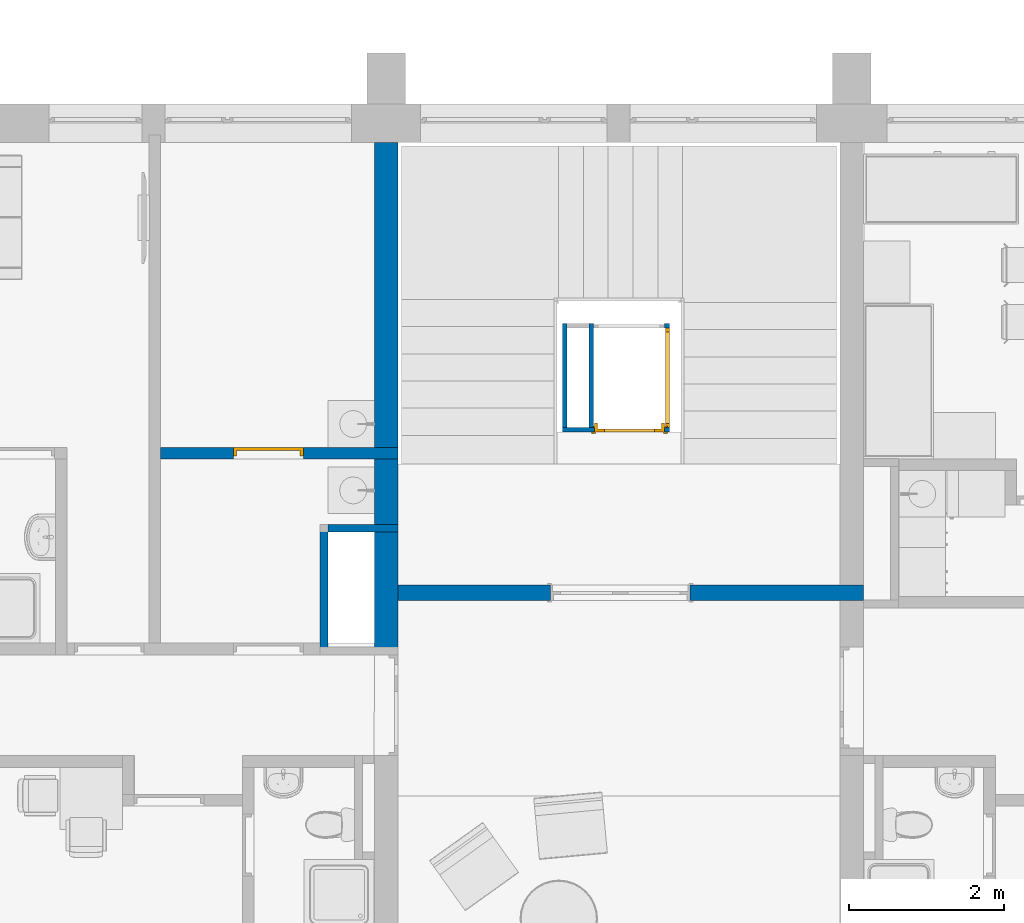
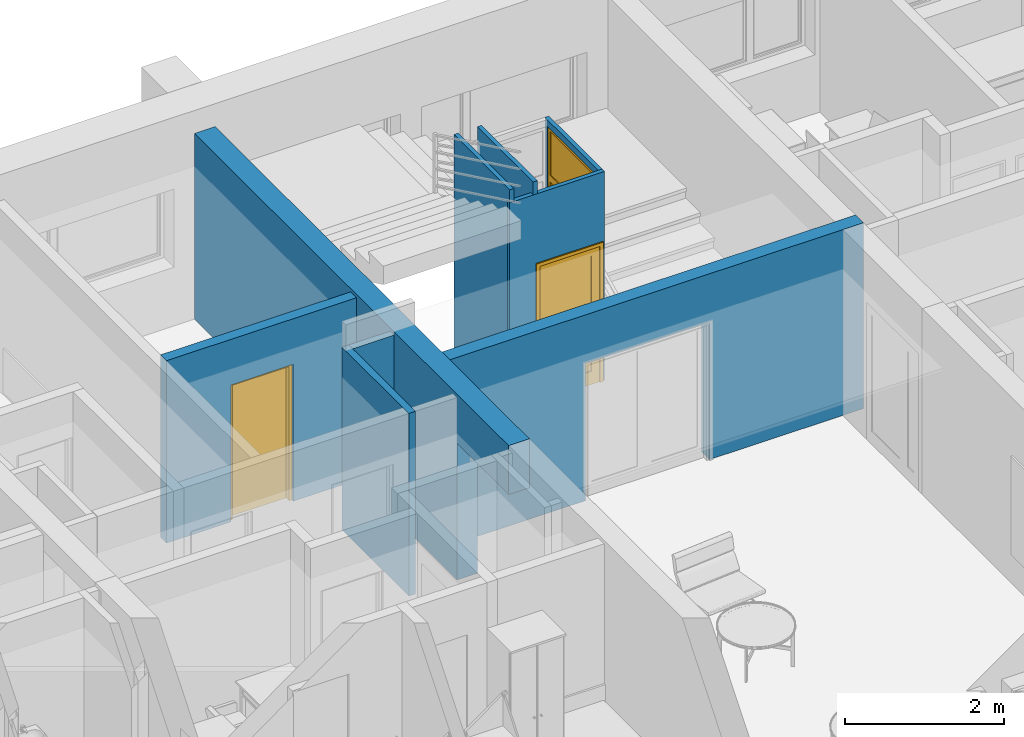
# One storey, part 13 of 165: 9 walls, 2 doors, 1 window, 5 openings.
"""IFC2X3 building model written with IfcOpenShell, lengths in millimetres."""

from ifc_helpers import new_model, entity, si_unit, converted_unit, money_unit, direction, frame, origin_with_axes, place, context, subcontext, project, spatial, polyline, outline, extrude, open_shell, faceted_brep, surface_model, source, transform, mapped, material, material_list, layer, layer_set, layer_usage, type_object, element, fill, save


model = new_model("IFC2X3")

# Units and contexts
model_context = context("Model", 3, precision=1e-05, world=origin_with_axes(), true_north=direction((0.0, 1.0)))
body_context = subcontext(model_context, "Body", "Model", "MODEL_VIEW")
ifc_project = project(units=[si_unit("LENGTHUNIT", "METRE", prefix="MILLI"), si_unit("AREAUNIT", "SQUARE_METRE"), si_unit("VOLUMEUNIT", "CUBIC_METRE"), converted_unit("PLANEANGLEUNIT", "DEGREE", entity("IfcPlaneAngleMeasure", 0.0174532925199), si_unit("PLANEANGLEUNIT", "RADIAN"), dimensions=[0, 0, 0, 0, 0, 0, 0]), si_unit("SOLIDANGLEUNIT", "STERADIAN"), money_unit("USD"), converted_unit("TIMEUNIT", "Year", entity("IfcTimeMeasure", 31556926.0), si_unit("TIMEUNIT", "SECOND"), dimensions=[0, 0, 0, 0, 0, 0, 0]), si_unit("MASSUNIT", "GRAM"), si_unit("THERMODYNAMICTEMPERATUREUNIT", "DEGREE_CELSIUS"), si_unit("LUMINOUSINTENSITYUNIT", "LUMEN")], contexts=[model_context])

# Site, building, storey
site_placement = place(None, origin_with_axes())
site = spatial("IfcSite", under=ifc_project, at=site_placement, Name="Site", CompositionType="ELEMENT")
building_placement = place(site_placement, origin_with_axes())
building = spatial("IfcBuilding", under=site, at=building_placement, Name="Building", CompositionType="ELEMENT")
storey_placement = place(building_placement, frame((0.0, 0.0, 6300.0), z_axis=(0.0, 0.0, 1.0), x_axis=(1.0, 0.0, 0.0)))
storey = spatial("IfcBuildingStorey", under=building, at=storey_placement, Name="4KORRUS", CompositionType="ELEMENT", Elevation=6300.0)

# Wall, opening, door
ifc_material_1 = material(Name="UmbKipsplaat")
ifc_layer_1 = layer(ifc_material_1, 13.0, ventilated="UNKNOWN")
ifc_layer_2 = layer(ifc_material_1, 13.0, ventilated="UNKNOWN")
ifc_material_2 = material(Name="SOOJUSTUS MINERAALVILL")
ifc_layer_3 = layer(ifc_material_2, 98.0, ventilated="UNKNOWN")
ifc_layer_4 = layer(ifc_material_1, 13.0, ventilated="UNKNOWN")
ifc_layer_5 = layer(ifc_material_1, 13.0, ventilated="UNKNOWN")
ifc_layer_set_1 = layer_set([ifc_layer_1, ifc_layer_2, ifc_layer_3, ifc_layer_4, ifc_layer_5], Name="kipssein150")
ifc_layer_usage_1 = layer_usage(ifc_layer_set_1, "AXIS2", "POSITIVE", 0.0)
wall_type_1 = type_object("IfcWallType", Name="kipssein150 150", PredefinedType="NOTDEFINED")
wall_1_placement = place(storey_placement, frame((-11990.2967033, -9065.57320461, 0.0), z_axis=(0.0, 0.0, 1.0), x_axis=(-1.0, 0.0, 0.0)))
wall_1 = element("IfcWallStandardCase", 1, at=wall_1_placement, inside=storey, type_object=wall_type_1, material=ifc_layer_usage_1, Name="SS1", ObjectType="SS1", context=body_context, shape_type="SweptSolid", body=[
    extrude(outline(polyline([(0.0, 0.0), (3057.0, 0.0), (3057.0, 150.0), (0.0, 150.0), (0.0, 0.0)])), origin_with_axes(), (0.0, 0.0, 1.0), 2800.0),
])
opening_1_placement = place(wall_1_placement, frame((1668.41053385, 0.0, 0.0), z_axis=(0.0, 0.0, 1.0), x_axis=(1.0, 0.0, 0.0)))
opening_1 = element("IfcOpeningElement", 2, at=opening_1_placement, cuts=wall_1, Name="SU2-4", context=body_context, shape_type="SweptSolid", body=[
    extrude(outline(polyline([(-450.0, -2100.0), (450.0, -2100.0), (450.0, 0.0), (-450.0, 0.0), (-450.0, -2100.0)])), frame((0.0, 150.0, 0.0), z_axis=(0.0, 1.0, 0.0), x_axis=(1.0, 0.0, 0.0)), (0.0, 0.0, -1.0), 450.0),
])
ifc_material_3 = material(Name="Background")
ifc_material_list = material_list([ifc_material_3])
door_style_1 = type_object("IfcDoorStyle", Name="Door 19", ConstructionType="NOTDEFINED", OperationType="SINGLE_SWING_LEFT", ParameterTakesPrecedence=False, Sizeable=False)
shared_shape_1 = source(origin_with_axes(), body_context, "Body", "Brep", [
    faceted_brep([(410.0, -40.0, 0.0), (410.0, -115.0, 0.0), (410.0, -115.0, 2060.0), (410.0, -40.0, 2060.0), (422.0, -40.0, 0.0), (422.0, 0.0, 0.0), (450.0, 0.0, 0.0), (450.0, -115.0, 0.0), (450.0, -115.0, 2060.0), (422.0, -40.0, 2060.0), (450.0, 0.0, 2060.0), (422.0, 0.0, 2060.0)], [[[0, 1, 2, 3]], [[4, 5, 6, 7, 1, 0]], [[2, 1, 7, 8]], [[9, 3, 2, 8, 10, 11]], [[9, 4, 0, 3]], [[11, 5, 4, 9]], [[11, 10, 6, 5]], [[7, 6, 10, 8]]]),
    faceted_brep([(-422.0, -40.0, 2060.0), (-422.0, 0.0, 2060.0), (-450.0, 0.0, 2060.0), (-450.0, -115.0, 2060.0), (-410.0, -115.0, 2060.0), (-410.0, -40.0, 2060.0), (-422.0, -40.0, 0.0), (-422.0, 0.0, 0.0), (-450.0, 0.0, 0.0), (-450.0, -115.0, 0.0), (-410.0, -115.0, 0.0), (-410.0, -40.0, 0.0)], [[[0, 1, 2, 3, 4, 5]], [[0, 6, 7, 1]], [[7, 8, 2, 1]], [[3, 2, 8, 9]], [[4, 3, 9, 10]], [[5, 4, 10, 11]], [[5, 11, 6, 0]], [[6, 11, 10, 9, 8, 7]]]),
    faceted_brep([(422.0, 0.0, 2072.0), (-422.0, 0.0, 2072.0), (-422.0, 0.0, 2060.0), (-450.0, 0.0, 2060.0), (-450.0, 0.0, 2100.0), (450.0, 0.0, 2100.0), (450.0, 0.0, 2060.0), (422.0, 0.0, 2060.0), (422.0, -40.0, 2072.0), (-422.0, -40.0, 2072.0), (-422.0, -40.0, 2060.0), (-410.0, -40.0, 2060.0), (-410.0, -115.0, 2060.0), (-450.0, -115.0, 2060.0), (-450.0, -115.0, 2100.0), (450.0, -115.0, 2100.0), (450.0, -115.0, 2060.0), (422.0, -40.0, 2060.0), (410.0, -115.0, 2060.0), (410.0, -40.0, 2060.0)], [[[0, 1, 2, 3, 4, 5, 6, 7]], [[0, 8, 9, 1]], [[1, 9, 10, 2]], [[10, 11, 12, 13, 3, 2]], [[14, 4, 3, 13]], [[15, 5, 4, 14]], [[16, 6, 5, 15]], [[17, 7, 6, 16, 18, 19]], [[7, 17, 8, 0]], [[10, 9, 8, 17, 19, 11]], [[19, 18, 12, 11]], [[13, 12, 18, 16, 15, 14]]]),
    faceted_brep([(-422.0, 0.0, 0.0), (422.0, 0.0, 0.0), (422.0, -40.0, 0.0), (-422.0, -40.0, 0.0), (-422.0, 0.0, 2072.0), (422.0, 0.0, 2072.0), (422.0, -40.0, 2072.0), (-422.0, -40.0, 2072.0)], [[[0, 1, 2, 3]], [[0, 4, 5, 1]], [[1, 5, 6, 2]], [[3, 2, 6, 7]], [[4, 0, 3, 7]], [[5, 4, 7, 6]]]),
])
door_1_placement = place(opening_1_placement, frame((450.0, 0.0, 0.0), z_axis=(0.0, 0.0, 1.0), x_axis=(-1.0, 0.0, 0.0)))
door_1 = element("IfcDoor", 3, at=door_1_placement, inside=storey, type_object=door_style_1, material=ifc_material_list, Name="SU2-4", ObjectType="Abiruumi uks", OverallHeight=2100.0, OverallWidth=900.0, context=body_context, shape_type="MappedRepresentation", body=[
    mapped(shared_shape_1, transform((450.0, 0.0, 0.0))),
])
fill(opening_1, door_1)

# Wall, opening
ifc_material_4 = material(Name="Olemasolevad seinad tellis, uus viimistlus")
ifc_layer_6 = layer(ifc_material_4, 300.0, ventilated="UNKNOWN")
ifc_layer_set_2 = layer_set([ifc_layer_6], Name="Olemasolevad seinad tellis, uus viimistlus  300")
ifc_layer_usage_2 = layer_usage(ifc_layer_set_2, "AXIS2", "POSITIVE", 0.0)
wall_type_2 = type_object("IfcWallType", Name="Olemasolevad seinad tellis, uus viimistlus  300", PredefinedType="NOTDEFINED")
wall_2_placement = place(storey_placement, frame((-11990.2967033, -13039.2398994, 0.0), z_axis=(0.0, 0.0, 1.0), x_axis=(0.0, 1.0, 0.0)))
wall_2 = element("IfcWallStandardCase", 4, at=wall_2_placement, inside=storey, type_object=wall_type_2, material=ifc_layer_usage_2, Name="KS1", ObjectType="KS1", context=body_context, shape_type="SweptSolid", body=[
    extrude(outline(polyline([(0.0, 0.0), (7899.63579061, 0.0), (7899.63579061, 300.0), (0.0, 300.0), (0.0, 0.0)])), origin_with_axes(), (0.0, 0.0, 1.0), 2850.0),
])
opening_2_placement = place(wall_2_placement, frame((650.0, 0.0, 0.0), z_axis=(0.0, 0.0, 1.0), x_axis=(1.0, 0.0, 0.0)))
element("IfcOpeningElement", 5, at=opening_2_placement, cuts=wall_2, Name="SU4-22", context=body_context, shape_type="SweptSolid", body=[
    extrude(outline(polyline([(-650.0, -2100.0), (650.0, -2100.0), (650.0, 0.0), (-650.0, 0.0), (-650.0, -2100.0)])), frame((0.0, 300.0, 0.0), z_axis=(0.0, -1.0, 0.0), x_axis=(-1.0, 0.0, 0.0)), (0.0, 0.0, 1.0), 900.0),
])

ifc_layer_7 = layer(ifc_material_4, 200.0, ventilated="UNKNOWN")
ifc_layer_set_3 = layer_set([ifc_layer_7], Name="Olemasolevad seinad tellis, uus viimistlus  200")
ifc_layer_usage_3 = layer_usage(ifc_layer_set_3, "AXIS2", "POSITIVE", -200.0)
wall_type_3 = type_object("IfcWallType", Name="Olemasolevad seinad tellis, uus viimistlus  200", PredefinedType="NOTDEFINED")
wall_3_placement = place(storey_placement, frame((-5990.29670331, -11039.6041088, 0.0), z_axis=(0.0, 0.0, 1.0), x_axis=(-1.0, 0.0, 0.0)))
wall_3 = element("IfcWallStandardCase", 6, at=wall_3_placement, inside=storey, type_object=wall_type_3, material=ifc_layer_usage_3, Name="KS1", ObjectType="KS1", context=body_context, shape_type="SweptSolid", body=[
    extrude(outline(polyline([(0.0, -200.0), (6000.0, -200.0), (6000.0, 0.0), (0.0, 0.0), (0.0, -200.0)])), origin_with_axes(), (0.0, 0.0, 1.0), 2850.0),
])
opening_3_placement = place(wall_3_placement, frame((3133.31707985, 0.0, 0.0), z_axis=(0.0, 0.0, 1.0), x_axis=(1.0, 0.0, 0.0)))
element("IfcOpeningElement", 7, at=opening_3_placement, cuts=wall_3, Name="SU5", context=body_context, shape_type="SweptSolid", body=[
    extrude(outline(polyline([(-900.0, 0.0), (900.0, 0.0), (900.0, 2100.0), (-900.0, 2100.0), (-900.0, 0.0)])), frame((0.0, -200.0, 0.0), z_axis=(0.0, 1.0, 0.0), x_axis=(-1.0, 0.0, 0.0)), (0.0, 0.0, 1.0), 600.0),
    extrude(outline(polyline([(-937.0, 0.0), (-937.0, -2137.0), (937.0, -2137.0), (937.0, 0.0), (-937.0, 0.0)])), frame((0.0, -200.0, 0.0), z_axis=(0.0, -1.0, 0.0), x_axis=(-1.0, 0.0, 0.0)), (0.0, 0.0, 1.0), 200.0),
    extrude(outline(polyline([(-937.0, 2137.0), (-937.0, 0.0), (937.0, 0.0), (937.0, 2137.0), (-937.0, 2137.0)])), frame((0.0, 0.0, 0.0), z_axis=(0.0, 1.0, 0.0), x_axis=(-1.0, 0.0, 0.0)), (0.0, 0.0, 1.0), 200.0),
])

# Walls
ifc_material_5 = material(Name="krohv")
ifc_layer_8 = layer(ifc_material_5, 2.0, ventilated="UNKNOWN")
ifc_layer_9 = layer(ifc_material_5, 10.0, ventilated="UNKNOWN")
ifc_material_6 = material(Name="Kergplokk")
ifc_layer_10 = layer(ifc_material_6, 76.0, ventilated="UNKNOWN")
ifc_layer_11 = layer(ifc_material_5, 10.0, ventilated="UNKNOWN")
ifc_layer_12 = layer(ifc_material_5, 2.0, ventilated="UNKNOWN")
ifc_layer_set_4 = layer_set([ifc_layer_8, ifc_layer_9, ifc_layer_10, ifc_layer_11, ifc_layer_12], Name="Kergplokk Bauroc 100")
ifc_layer_usage_4 = layer_usage(ifc_layer_set_4, "AXIS2", "POSITIVE", 0.0)
wall_type_4 = type_object("IfcWallType", Name="Kergplokk Bauroc 100 100", PredefinedType="NOTDEFINED")
wall_4_placement = place(storey_placement, frame((-11990.2967033, -10059.2398994, 0.0), z_axis=(0.0, 0.0, 1.0), x_axis=(-1.0, 0.0, 0.0)))
element("IfcWallStandardCase", 8, at=wall_4_placement, inside=storey, type_object=wall_type_4, material=ifc_layer_usage_4, Name="SS2", ObjectType="SS2", context=body_context, shape_type="SweptSolid", body=[
    extrude(outline(polyline([(0.0, 0.0), (900.0, 0.0), (900.0, 100.0), (0.0, 100.0), (0.0, 0.0)])), origin_with_axes(), (0.0, 0.0, 1.0), 2800.0),
])
ifc_layer_usage_5 = layer_usage(ifc_layer_set_4, "AXIS2", "POSITIVE", 0.0)
wall_5_placement = place(storey_placement, frame((-12890.2967033, -11739.2398994, 0.0), z_axis=(0.0, 0.0, 1.0), x_axis=(0.0, 1.0, 0.0)))
element("IfcWallStandardCase", 9, at=wall_5_placement, inside=storey, type_object=wall_type_4, material=ifc_layer_usage_5, Name="SS2", ObjectType="SS2", context=body_context, shape_type="SweptSolid", body=[
    extrude(outline(polyline([(0.0, 0.0), (1680.0, 0.0), (1680.0, 100.0), (0.0, 100.0), (0.0, 0.0)])), origin_with_axes(), (0.0, 0.0, 1.0), 2800.0),
])
ifc_material_7 = material(Name="Terasprofiil")
ifc_layer_13 = layer(ifc_material_7, 60.0, ventilated="UNKNOWN")
ifc_layer_set_5 = layer_set([ifc_layer_13], Name="Terasprofiil 60")
ifc_layer_usage_6 = layer_usage(ifc_layer_set_5, "AXIS2", "POSITIVE", -60.0)
wall_type_5 = type_object("IfcWallType", Name="Terasprofiil 60", PredefinedType="NOTDEFINED")
wall_6_placement = place(storey_placement, frame((-9469.40654634, -7470.64352695, 0.0), z_axis=(0.0, 0.0, 1.0), x_axis=(0.0, -1.0, 0.0)))
element("IfcWallStandardCase", 10, at=wall_6_placement, inside=storey, type_object=wall_type_5, material=ifc_layer_usage_6, Name="Lifti sein", ObjectType="Lifti sein", context=body_context, shape_type="SweptSolid", body=[
    extrude(outline(polyline([(0.0, -60.0), (1400.0, -60.0), (1400.0, 0.0), (0.0, 0.0), (0.0, -60.0)])), origin_with_axes(), (0.0, 0.0, 1.0), 3400.0),
])

# Wall, opening, window
ifc_layer_usage_7 = layer_usage(ifc_layer_set_5, "AXIS2", "POSITIVE", -60.0)
wall_7_placement = place(storey_placement, frame((-8491.93119318, -7470.64352695, 0.0), z_axis=(0.0, 0.0, 1.0), x_axis=(0.0, -1.0, 0.0)))
wall_7 = element("IfcWallStandardCase", 11, at=wall_7_placement, inside=storey, type_object=wall_type_5, material=ifc_layer_usage_7, Name="Lifti sein", ObjectType="Lifti sein", context=body_context, shape_type="SweptSolid", body=[
    extrude(outline(polyline([(0.0, -60.0), (1400.0, -60.0), (1400.0, 0.0), (0.0, 0.0), (0.0, -60.0)])), origin_with_axes(), (0.0, 0.0, 1.0), 3200.0),
])
opening_4_placement = place(wall_7_placement, frame((700.0, 0.0, 0.0), z_axis=(0.0, 0.0, 1.0), x_axis=(1.0, 0.0, 0.0)))
opening_4 = element("IfcOpeningElement", 12, at=opening_4_placement, cuts=wall_7, Name="Lifti klaassein", context=body_context, shape_type="SweptSolid", body=[
    extrude(outline(polyline([(640.0, -3100.0), (640.0, 0.0), (-640.0, 0.0), (-640.0, -3100.0), (640.0, -3100.0)])), frame((0.0, -60.0, 0.0), z_axis=(0.0, 1.0, 0.0), x_axis=(1.0, 0.0, 0.0)), (0.0, 0.0, 1.0), 180.0),
])
window_style = type_object("IfcWindowStyle", Name="Vertical Multi-Sash Window 19", ConstructionType="NOTDEFINED", OperationType="USERDEFINED", ParameterTakesPrecedence=False, Sizeable=False)
shared_shape_2 = source(origin_with_axes(), body_context, "Body", "SurfaceModel", [
    faceted_brep([(590.0, -50.0, 3050.0), (640.0, -50.0, 3050.0), (640.0, 0.0, 3050.0), (590.0, 0.0, 3050.0), (590.0, -50.0, 2375.0), (590.0, -50.0, 2275.0), (590.0, -50.0, 1600.0), (590.0, -50.0, 1500.0), (590.0, -50.0, 825.0), (590.0, -50.0, 725.0), (590.0, -50.0, 50.0), (640.0, -50.0, 50.0), (640.0, 0.0, 50.0), (590.0, 0.0, 50.0), (590.0, 0.0, 725.0), (590.0, 0.0, 825.0), (590.0, 0.0, 1500.0), (590.0, 0.0, 1600.0), (590.0, 0.0, 2275.0), (590.0, 0.0, 2375.0)], [[[0, 1, 2, 3]], [[0, 4, 5, 6, 7, 8, 9, 10, 11, 1]], [[1, 11, 12, 2]], [[3, 2, 12, 13, 14, 15, 16, 17, 18, 19]], [[4, 0, 3, 19]], [[5, 4, 19, 18]], [[6, 5, 18, 17]], [[7, 6, 17, 16]], [[8, 7, 16, 15]], [[9, 8, 15, 14]], [[10, 9, 14, 13]], [[11, 10, 13, 12]]]),
    faceted_brep([(-590.0, -50.0, 2375.0), (-590.0, -50.0, 2275.0), (-590.0, 0.0, 2275.0), (-590.0, 0.0, 2375.0), (-590.0, -50.0, 3050.0), (-640.0, -50.0, 3050.0), (-640.0, -50.0, 50.0), (-590.0, -50.0, 50.0), (-590.0, -50.0, 725.0), (-590.0, -50.0, 825.0), (-590.0, -50.0, 1500.0), (-590.0, -50.0, 1600.0), (-590.0, 0.0, 1600.0), (-590.0, 0.0, 1500.0), (-590.0, 0.0, 825.0), (-590.0, 0.0, 725.0), (-590.0, 0.0, 50.0), (-640.0, 0.0, 50.0), (-640.0, 0.0, 3050.0), (-590.0, 0.0, 3050.0)], [[[0, 1, 2, 3]], [[0, 4, 5, 6, 7, 8, 9, 10, 11, 1]], [[1, 11, 12, 2]], [[3, 2, 12, 13, 14, 15, 16, 17, 18, 19]], [[4, 0, 3, 19]], [[5, 4, 19, 18]], [[6, 5, 18, 17]], [[7, 6, 17, 16]], [[8, 7, 16, 15]], [[9, 8, 15, 14]], [[10, 9, 14, 13]], [[11, 10, 13, 12]]]),
    faceted_brep([(-590.0, -50.0, 3050.0), (-640.0, -50.0, 3050.0), (-640.0, 0.0, 3050.0), (-590.0, 0.0, 3050.0), (590.0, -50.0, 3050.0), (640.0, -50.0, 3050.0), (640.0, -50.0, 3100.0), (-640.0, -50.0, 3100.0), (-640.0, 0.0, 3100.0), (640.0, 0.0, 3100.0), (640.0, 0.0, 3050.0), (590.0, 0.0, 3050.0)], [[[0, 1, 2, 3]], [[0, 4, 5, 6, 7, 1]], [[1, 7, 8, 2]], [[3, 2, 8, 9, 10, 11]], [[4, 0, 3, 11]], [[5, 4, 11, 10]], [[6, 5, 10, 9]], [[7, 6, 9, 8]]]),
    faceted_brep([(590.0, -50.0, 50.0), (640.0, -50.0, 50.0), (640.0, 0.0, 50.0), (590.0, 0.0, 50.0), (-590.0, -50.0, 50.0), (-640.0, -50.0, 50.0), (-640.0, -50.0, 0.0), (640.0, -50.0, 0.0), (640.0, 0.0, 0.0), (-640.0, 0.0, 0.0), (-640.0, 0.0, 50.0), (-590.0, 0.0, 50.0)], [[[0, 1, 2, 3]], [[0, 4, 5, 6, 7, 1]], [[1, 7, 8, 2]], [[3, 2, 8, 9, 10, 11]], [[4, 0, 3, 11]], [[5, 4, 11, 10]], [[6, 5, 10, 9]], [[7, 6, 9, 8]]]),
    faceted_brep([(-590.0, -50.0, 825.0), (590.0, -50.0, 825.0), (590.0, 0.0, 825.0), (-590.0, 0.0, 825.0), (-590.0, -50.0, 725.0), (590.0, -50.0, 725.0), (590.0, 0.0, 725.0), (-590.0, 0.0, 725.0)], [[[0, 1, 2, 3]], [[0, 4, 5, 1]], [[1, 5, 6, 2]], [[3, 2, 6, 7]], [[4, 0, 3, 7]], [[5, 4, 7, 6]]]),
    faceted_brep([(-590.0, -50.0, 1600.0), (590.0, -50.0, 1600.0), (590.0, 0.0, 1600.0), (-590.0, 0.0, 1600.0), (-590.0, -50.0, 1500.0), (590.0, -50.0, 1500.0), (590.0, 0.0, 1500.0), (-590.0, 0.0, 1500.0)], [[[0, 1, 2, 3]], [[0, 4, 5, 1]], [[1, 5, 6, 2]], [[3, 2, 6, 7]], [[4, 0, 3, 7]], [[5, 4, 7, 6]]]),
    faceted_brep([(-590.0, -50.0, 2375.0), (590.0, -50.0, 2375.0), (590.0, 0.0, 2375.0), (-590.0, 0.0, 2375.0), (-590.0, -50.0, 2275.0), (590.0, -50.0, 2275.0), (590.0, 0.0, 2275.0), (-590.0, 0.0, 2275.0)], [[[0, 1, 2, 3]], [[0, 4, 5, 1]], [[1, 5, 6, 2]], [[3, 2, 6, 7]], [[4, 0, 3, 7]], [[5, 4, 7, 6]]]),
    surface_model("IfcShellBasedSurfaceModel", [(590.0, -35.0, 50.0), (590.0, -35.0, 725.0), (-590.0, -35.0, 725.0), (-590.0, -35.0, 50.0)], [open_shell([[[0, 1, 2, 3]]])]),
    surface_model("IfcShellBasedSurfaceModel", [(590.0, -15.0, 50.0), (-590.0, -15.0, 50.0), (-590.0, -15.0, 725.0), (590.0, -15.0, 725.0)], [open_shell([[[0, 1, 2, 3]]])]),
    surface_model("IfcShellBasedSurfaceModel", [(590.0, -35.0, 825.0), (590.0, -35.0, 1500.0), (-590.0, -35.0, 1500.0), (-590.0, -35.0, 825.0)], [open_shell([[[0, 1, 2, 3]]])]),
    surface_model("IfcShellBasedSurfaceModel", [(590.0, -15.0, 825.0), (-590.0, -15.0, 825.0), (-590.0, -15.0, 1500.0), (590.0, -15.0, 1500.0)], [open_shell([[[0, 1, 2, 3]]])]),
    surface_model("IfcShellBasedSurfaceModel", [(590.0, -35.0, 1600.0), (590.0, -35.0, 2275.0), (-590.0, -35.0, 2275.0), (-590.0, -35.0, 1600.0)], [open_shell([[[0, 1, 2, 3]]])]),
    surface_model("IfcShellBasedSurfaceModel", [(590.0, -15.0, 1600.0), (-590.0, -15.0, 1600.0), (-590.0, -15.0, 2275.0), (590.0, -15.0, 2275.0)], [open_shell([[[0, 1, 2, 3]]])]),
    surface_model("IfcShellBasedSurfaceModel", [(590.0, -35.0, 2375.0), (590.0, -35.0, 3050.0), (-590.0, -35.0, 3050.0), (-590.0, -35.0, 2375.0)], [open_shell([[[0, 1, 2, 3]]])]),
    surface_model("IfcShellBasedSurfaceModel", [(590.0, -15.0, 2375.0), (-590.0, -15.0, 2375.0), (-590.0, -15.0, 3050.0), (590.0, -15.0, 3050.0)], [open_shell([[[0, 1, 2, 3]]])]),
])
window_placement = place(opening_4_placement, frame((-640.0, 0.0, 0.0), z_axis=(0.0, 0.0, 1.0), x_axis=(1.0, 0.0, 0.0)))
window = element("IfcWindow", 13, at=window_placement, inside=storey, type_object=window_style, material=ifc_material_list, Name="Lifti klaassein", ObjectType="WINDOW", OverallHeight=3100.0, OverallWidth=1280.0, context=body_context, shape_type="MappedRepresentation", body=[
    mapped(shared_shape_2, transform((640.0, 0.0, 0.0))),
])
fill(opening_4, window)

# Wall
ifc_layer_usage_8 = layer_usage(ifc_layer_set_5, "AXIS2", "POSITIVE", 0.0)
wall_8_placement = place(storey_placement, frame((-9869.40654634, -7470.64352695, 0.0), z_axis=(0.0, 0.0, 1.0), x_axis=(0.0, -1.0, 0.0)))
element("IfcWallStandardCase", 14, at=wall_8_placement, inside=storey, type_object=wall_type_5, material=ifc_layer_usage_8, Name="Lifti sein", ObjectType="Lifti sein", context=body_context, shape_type="SweptSolid", body=[
    extrude(outline(polyline([(0.0, 0.0), (1400.0, 0.0), (1400.0, 60.0), (0.0, 60.0), (0.0, 0.0)])), origin_with_axes(), (0.0, 0.0, 1.0), 3400.0),
])

# Wall, opening, door
ifc_layer_usage_9 = layer_usage(ifc_layer_set_5, "AXIS2", "POSITIVE", -60.0)
wall_9_placement = place(storey_placement, frame((-8491.93119318, -8870.64352695, 0.0), z_axis=(0.0, 0.0, 1.0), x_axis=(-1.0, 0.0, 0.0)))
wall_9 = element("IfcWallStandardCase", 15, at=wall_9_placement, inside=storey, type_object=wall_type_5, material=ifc_layer_usage_9, Name="Lifti sein", ObjectType="Lifti sein", context=body_context, shape_type="SweptSolid", body=[
    extrude(outline(polyline([(0.0, -60.0), (1377.47535316, -60.0), (1377.47535316, 0.0), (0.0, 0.0), (0.0, -60.0)])), origin_with_axes(), (0.0, 0.0, 1.0), 3200.0),
])
opening_5_placement = place(wall_9_placement, frame((512.692164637, 0.0, 0.0), z_axis=(0.0, 0.0, 1.0), x_axis=(1.0, 0.0, 0.0)))
opening_5 = element("IfcOpeningElement", 16, at=opening_5_placement, cuts=wall_9, Name="Liftiuks", context=body_context, shape_type="SweptSolid", body=[
    extrude(outline(polyline([(-450.0, -2100.0), (450.0, -2100.0), (450.0, 0.0), (-450.0, 0.0), (-450.0, -2100.0)])), frame((0.0, -60.0, 0.0), z_axis=(0.0, 1.0, 0.0), x_axis=(1.0, 0.0, 0.0)), (0.0, 0.0, 1.0), 180.0),
    extrude(outline(polyline([(-487.0, 2137.0), (-487.0, 0.0), (487.0, 0.0), (487.0, 2137.0), (-487.0, 2137.0)])), frame((0.0, -60.0, 0.0), z_axis=(0.0, -1.0, 0.0), x_axis=(1.0, 0.0, 0.0)), (0.0, 0.0, 1.0), 60.0),
    extrude(outline(polyline([(-487.0, 0.0), (-487.0, -2137.0), (487.0, -2137.0), (487.0, 0.0), (-487.0, 0.0)])), frame((0.0, 0.0, 0.0), z_axis=(0.0, 1.0, 0.0), x_axis=(1.0, 0.0, 0.0)), (0.0, 0.0, 1.0), 60.0),
])
door_style_2 = type_object("IfcDoorStyle", Name="Door 19", ConstructionType="NOTDEFINED", OperationType="SINGLE_SWING_RIGHT", ParameterTakesPrecedence=False, Sizeable=False)
shared_shape_3 = source(origin_with_axes(), body_context, "Body", "SurfaceModel", [
    faceted_brep([(-487.0, -79.0, 0.0), (-487.0, -60.0, 0.0), (-437.0, -60.0, 0.0), (-437.0, -79.0, 0.0), (-487.0, -79.0, 2137.0), (-487.0, -60.0, 2137.0), (-437.0, -60.0, 2087.0), (-437.0, -79.0, 2087.0)], [[[0, 1, 2, 3]], [[4, 5, 1, 0]], [[1, 5, 6, 2]], [[3, 2, 6, 7]], [[0, 3, 7, 4]], [[7, 6, 5, 4]]]),
    faceted_brep([(487.0, -79.0, 2137.0), (487.0, -60.0, 2137.0), (437.0, -60.0, 2087.0), (437.0, -79.0, 2087.0), (487.0, -79.0, 0.0), (487.0, -60.0, 0.0), (437.0, -60.0, 0.0), (437.0, -79.0, 0.0)], [[[0, 1, 2, 3]], [[4, 5, 1, 0]], [[1, 5, 6, 2]], [[3, 2, 6, 7]], [[0, 3, 7, 4]], [[7, 6, 5, 4]]]),
    faceted_brep([(-487.0, -79.0, 2137.0), (-487.0, -60.0, 2137.0), (-437.0, -60.0, 2087.0), (-437.0, -79.0, 2087.0), (487.0, -79.0, 2137.0), (487.0, -60.0, 2137.0), (437.0, -60.0, 2087.0), (437.0, -79.0, 2087.0)], [[[0, 1, 2, 3]], [[4, 5, 1, 0]], [[1, 5, 6, 2]], [[3, 2, 6, 7]], [[0, 3, 7, 4]], [[7, 6, 5, 4]]]),
    faceted_brep([(-487.0, 19.0, 0.0), (-437.0, 19.0, 0.0), (-437.0, 0.0, 0.0), (-487.0, 0.0, 0.0), (-487.0, 19.0, 2137.0), (-437.0, 19.0, 2087.0), (-437.0, 0.0, 2087.0), (-487.0, 0.0, 2137.0)], [[[0, 1, 2, 3]], [[0, 4, 5, 1]], [[1, 5, 6, 2]], [[3, 2, 6, 7]], [[4, 0, 3, 7]], [[5, 4, 7, 6]]]),
    faceted_brep([(487.0, 19.0, 2137.0), (437.0, 19.0, 2087.0), (437.0, 0.0, 2087.0), (487.0, 0.0, 2137.0), (487.0, 19.0, 0.0), (437.0, 19.0, 0.0), (437.0, 0.0, 0.0), (487.0, 0.0, 0.0)], [[[0, 1, 2, 3]], [[0, 4, 5, 1]], [[1, 5, 6, 2]], [[3, 2, 6, 7]], [[4, 0, 3, 7]], [[5, 4, 7, 6]]]),
    faceted_brep([(-487.0, 19.0, 2137.0), (-437.0, 19.0, 2087.0), (-437.0, 0.0, 2087.0), (-487.0, 0.0, 2137.0), (487.0, 19.0, 2137.0), (437.0, 19.0, 2087.0), (437.0, 0.0, 2087.0), (487.0, 0.0, 2137.0)], [[[0, 1, 2, 3]], [[0, 4, 5, 1]], [[1, 5, 6, 2]], [[3, 2, 6, 7]], [[4, 0, 3, 7]], [[5, 4, 7, 6]]]),
    faceted_brep([(-410.0, -40.0, 0.0), (-410.0, -40.0, 2060.0), (-410.0, -115.0, 2060.0), (-410.0, -115.0, 0.0), (-422.0, -40.0, 2060.0), (-422.0, -40.0, 0.0), (-422.0, 0.0, 2060.0), (-450.0, 0.0, 2060.0), (-450.0, -115.0, 2060.0), (-450.0, -115.0, 0.0), (-450.0, 0.0, 0.0), (-422.0, 0.0, 0.0)], [[[0, 1, 2, 3]], [[4, 1, 0, 5]], [[4, 6, 7, 8, 2, 1]], [[2, 8, 9, 3]], [[5, 0, 3, 9, 10, 11]], [[6, 4, 5, 11]], [[6, 11, 10, 7]], [[9, 8, 7, 10]]]),
    faceted_brep([(422.0, -40.0, 2060.0), (410.0, -40.0, 2060.0), (410.0, -115.0, 2060.0), (450.0, -115.0, 2060.0), (450.0, 0.0, 2060.0), (422.0, 0.0, 2060.0), (422.0, -40.0, 0.0), (410.0, -40.0, 0.0), (410.0, -115.0, 0.0), (450.0, -115.0, 0.0), (450.0, 0.0, 0.0), (422.0, 0.0, 0.0)], [[[0, 1, 2, 3, 4, 5]], [[1, 0, 6, 7]], [[1, 7, 8, 2]], [[2, 8, 9, 3]], [[3, 9, 10, 4]], [[11, 5, 4, 10]], [[0, 5, 11, 6]], [[6, 11, 10, 9, 8, 7]]]),
    faceted_brep([(-422.0, 0.0, 2072.0), (-422.0, 0.0, 2060.0), (-450.0, 0.0, 2060.0), (-450.0, 0.0, 2100.0), (450.0, 0.0, 2100.0), (450.0, 0.0, 2060.0), (422.0, 0.0, 2060.0), (422.0, 0.0, 2072.0), (-422.0, -40.0, 2072.0), (-422.0, -40.0, 2060.0), (-410.0, -40.0, 2060.0), (-410.0, -115.0, 2060.0), (-450.0, -115.0, 2060.0), (-450.0, -115.0, 2100.0), (450.0, -115.0, 2100.0), (450.0, -115.0, 2060.0), (422.0, -40.0, 2060.0), (410.0, -115.0, 2060.0), (410.0, -40.0, 2060.0), (422.0, -40.0, 2072.0)], [[[0, 1, 2, 3, 4, 5, 6, 7]], [[1, 0, 8, 9]], [[9, 10, 11, 12, 2, 1]], [[12, 13, 3, 2]], [[13, 14, 4, 3]], [[14, 15, 5, 4]], [[16, 6, 5, 15, 17, 18]], [[7, 6, 16, 19]], [[0, 7, 19, 8]], [[16, 18, 10, 9, 8, 19]], [[10, 18, 17, 11]], [[15, 14, 13, 12, 11, 17]]]),
    faceted_brep([(422.0, 0.0, 200.0), (422.0, -40.0, 200.0), (322.0, -40.0, 200.0), (322.0, 0.0, 200.0), (422.0, 0.0, 1972.0), (422.0, -40.0, 1972.0), (322.0, -40.0, 1972.0), (322.0, 0.0, 1972.0)], [[[0, 1, 2, 3]], [[4, 5, 1, 0]], [[1, 5, 6, 2]], [[3, 2, 6, 7]], [[0, 3, 7, 4]], [[7, 6, 5, 4]]]),
    faceted_brep([(-422.0, 0.0, 200.0), (-422.0, -40.0, 200.0), (-422.0, -40.0, 1972.0), (-422.0, 0.0, 1972.0), (-322.0, 0.0, 200.0), (-322.0, -40.0, 200.0), (-322.0, -40.0, 1972.0), (-322.0, 0.0, 1972.0)], [[[0, 1, 2, 3]], [[4, 5, 1, 0]], [[1, 5, 6, 2]], [[3, 2, 6, 7]], [[0, 3, 7, 4]], [[7, 6, 5, 4]]]),
    faceted_brep([(422.0, 0.0, 0.0), (422.0, -40.0, 0.0), (-422.0, -40.0, 0.0), (-422.0, 0.0, 0.0), (422.0, 0.0, 200.0), (422.0, -40.0, 200.0), (322.0, -40.0, 200.0), (-322.0, -40.0, 200.0), (-422.0, -40.0, 200.0), (-422.0, 0.0, 200.0), (-322.0, 0.0, 200.0), (322.0, 0.0, 200.0)], [[[0, 1, 2, 3]], [[4, 5, 1, 0]], [[1, 5, 6, 7, 8, 2]], [[3, 2, 8, 9]], [[0, 3, 9, 10, 11, 4]], [[11, 6, 5, 4]], [[10, 7, 6, 11]], [[9, 8, 7, 10]]]),
    faceted_brep([(422.0, 0.0, 2072.0), (422.0, -40.0, 2072.0), (422.0, -40.0, 1972.0), (422.0, 0.0, 1972.0), (-422.0, 0.0, 2072.0), (-422.0, -40.0, 2072.0), (-422.0, -40.0, 1972.0), (-322.0, -40.0, 1972.0), (322.0, -40.0, 1972.0), (322.0, 0.0, 1972.0), (-322.0, 0.0, 1972.0), (-422.0, 0.0, 1972.0)], [[[0, 1, 2, 3]], [[4, 5, 1, 0]], [[1, 5, 6, 7, 8, 2]], [[3, 2, 8, 9]], [[0, 3, 9, 10, 11, 4]], [[11, 6, 5, 4]], [[10, 7, 6, 11]], [[9, 8, 7, 10]]]),
    surface_model("IfcShellBasedSurfaceModel", [(322.0, -14.0, 200.0), (-322.0, -14.0, 200.0), (-322.0, -14.0, 1972.0), (322.0, -14.0, 1972.0)], [open_shell([[[0, 1, 2, 3]]])]),
    surface_model("IfcShellBasedSurfaceModel", [(322.0, -26.0, 200.0), (322.0, -26.0, 1972.0), (-322.0, -26.0, 1972.0), (-322.0, -26.0, 200.0)], [open_shell([[[0, 1, 2, 3]]])]),
])
door_2_placement = place(opening_5_placement, frame((-450.0, 0.0, 0.0), z_axis=(0.0, 0.0, 1.0), x_axis=(1.0, 0.0, 0.0)))
door_2 = element("IfcDoor", 17, at=door_2_placement, inside=storey, type_object=door_style_2, material=ifc_material_list, Name="Liftiuks", ObjectType="door", OverallHeight=2100.0, OverallWidth=900.0, context=body_context, shape_type="MappedRepresentation", body=[
    mapped(shared_shape_3, transform((450.0, 0.0, 0.0))),
])
fill(opening_5, door_2)

save(model, "model.ifc")
